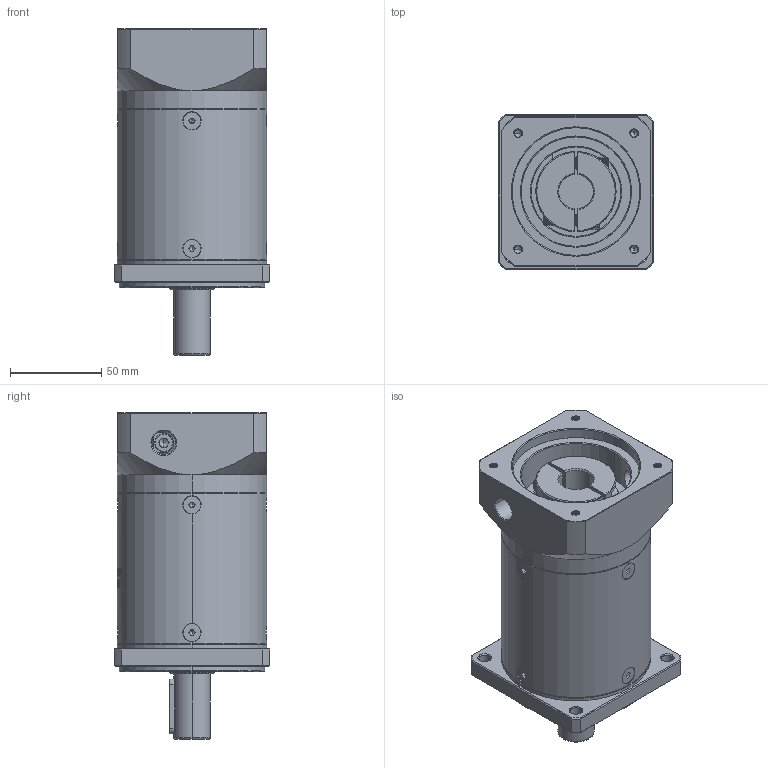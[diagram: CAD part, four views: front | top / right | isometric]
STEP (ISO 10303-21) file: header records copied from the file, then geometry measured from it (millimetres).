
FILE_DESCRIPTION (( 'STEP AP214' ), '1' );
FILE_NAME ('ZF080-D20-L3-P2-19-70-90-M5.step', '2023-08-19T05:30:21', ( '' ), ( '' ), 'SwSTEP 2.0', 'SolidWorks 2016', '' );
FILE_SCHEMA (( 'AUTOMOTIVE_DESIGN' ));
Length unit declared in the file: millimetre
Products named in the file (1): ZF080-D20-L3-P2-19-70-90-M5
Bounding box: 85 x 85 x 179 mm (x, y, z)
Volume: 738164.2 mm3; surface area: 95827.8 mm2
Topology: 13 solids, 13 shells, 2224 faces, 5832 edges, 3706 vertices
Faces by surface type: plane 1066, bspline 394, cylinder 390, cone 337, torus 37
Entity records: 118981 total; most frequent: CARTESIAN_POINT 44782, ORIENTED_EDGE 11604, DIRECTION 8600, EDGE_CURVE 5802, VERTEX_POINT 3706, LINE 3078, VECTOR 3078, AXIS2_PLACEMENT_3D 2761
